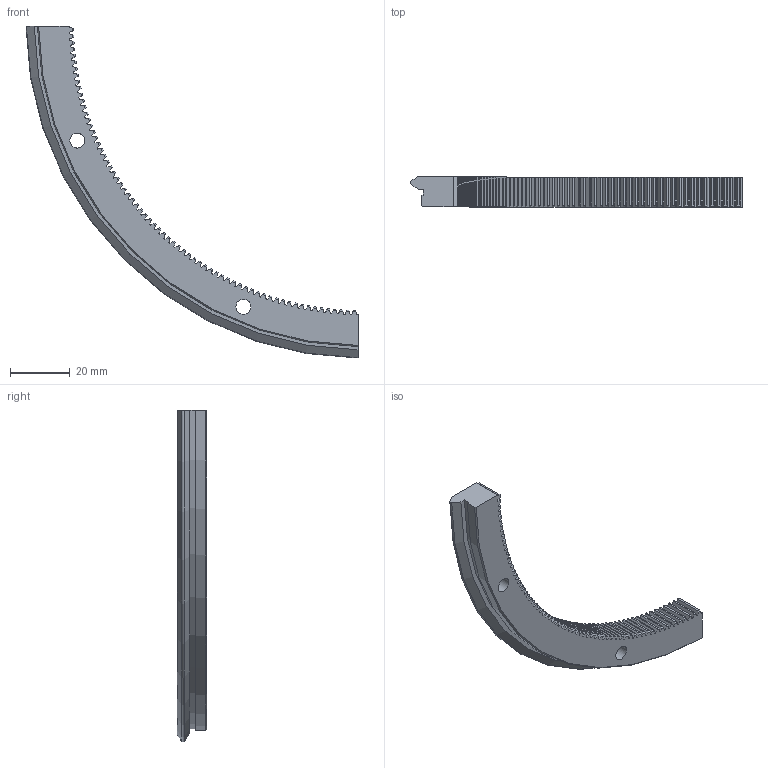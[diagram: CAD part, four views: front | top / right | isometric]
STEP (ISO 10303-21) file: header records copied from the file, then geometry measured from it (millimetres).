
FILE_DESCRIPTION(('STEP AP203'),'1');
FILE_NAME('REV 223 R90 Q.stp','2022-07-19T05:00:51',(' '),(' '),'Spatial InterOp 3D',' ',' ');
FILE_SCHEMA(('CONFIG_CONTROL_DESIGN'));
Length unit declared in the file: millimetre
Products named in the file (1): REV 223 R90 Q
Bounding box: 110.69 x 10 x 110.69 mm (x, y, z)
Volume: 19044.9 mm3; surface area: 9671.4 mm2
Topology: 1 solids, 1 shells, 359 faces, 1067 edges, 712 vertices
Faces by surface type: plane 144, cylinder 143, cone 71, torus 1
Full cylindrical faces by diameter (mm): 5 x2, 8 x2
Entity records: 12322 total; most frequent: CARTESIAN_POINT 2573, ORIENTED_EDGE 2122, DIRECTION 1996, EDGE_CURVE 1061, AXIS2_PLACEMENT_3D 719, VERTEX_POINT 710, LINE 558, VECTOR 558
